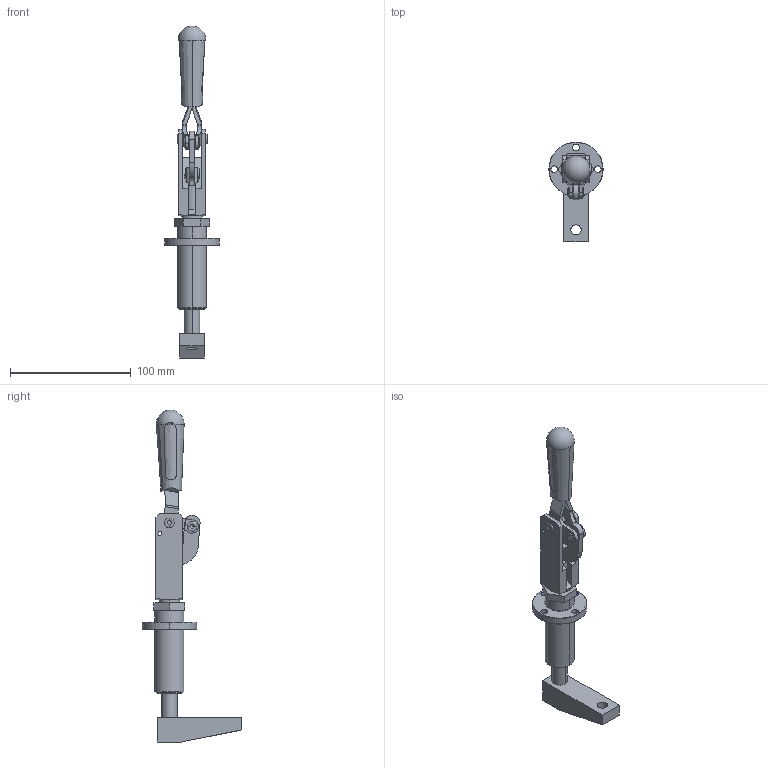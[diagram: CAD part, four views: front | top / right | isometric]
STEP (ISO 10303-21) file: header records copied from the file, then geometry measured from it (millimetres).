
FILE_DESCRIPTION((''),'2;1');
FILE_NAME('001_6004_DESTACO_ASM','2023-03-30T',('SYSTEM'),(''),'PRO/ENGINEER BY PARAMETRIC TECHNOLOGY CORPORATION, 2016360','PRO/ENGINEER BY PARAMETRIC TECHNOLOGY CORPORATION, 2016360','');
FILE_SCHEMA(('AUTOMOTIVE_DESIGN { 1 0 10303 214 1 1 1 1 }'));
Length unit declared in the file: inch
Products named in the file (8): 6004006; PISTON_GUIDE; HANDLE; LINK; SHAFT; PISTON; COVER; 001_6004_DESTACO_ASM
Assembly tree (7 placements, depth 2):
  001_6004_DESTACO_ASM
    6004006
    PISTON_GUIDE
    HANDLE
    LINK
    SHAFT
    PISTON
    COVER
Bounding box: 45 x 82.5 x 274.75 mm (x, y, z)
Volume: 110001.6 mm3; surface area: 55544.7 mm2
Topology: 7 solids, 11 shells, 413 faces, 1077 edges, 695 vertices
Faces by surface type: cylinder 158, plane 154, cone 48, torus 33, bspline 10, sphere 10
Entity records: 15536 total; most frequent: CARTESIAN_POINT 4412, DIRECTION 2204, ORIENTED_EDGE 2126, EDGE_CURVE 1063, AXIS2_PLACEMENT_3D 868, VERTEX_POINT 695, EDGE_LOOP 476, VECTOR 468
